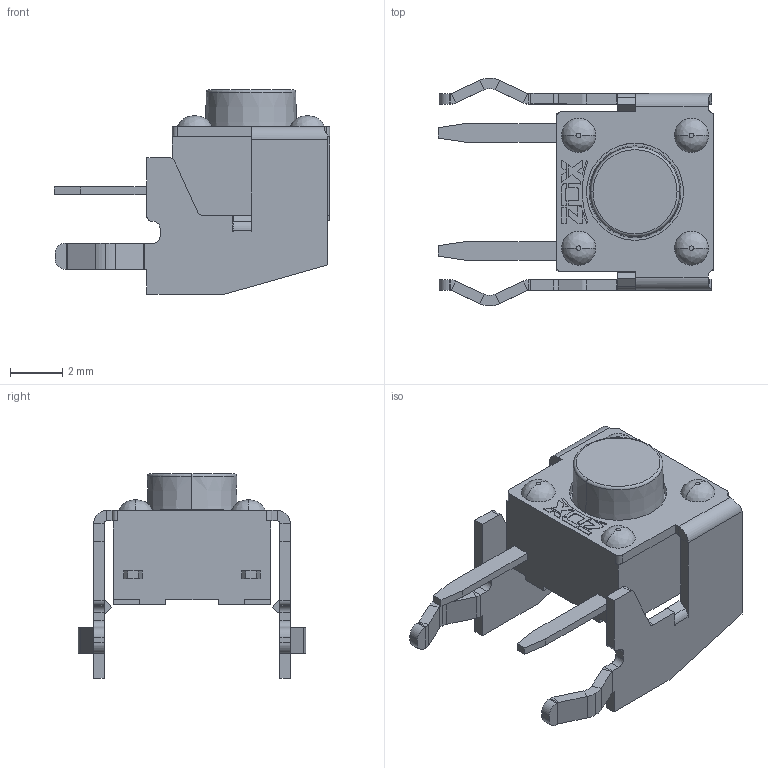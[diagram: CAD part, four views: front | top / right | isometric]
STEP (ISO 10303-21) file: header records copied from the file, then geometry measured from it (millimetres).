
FILE_DESCRIPTION((''),'2;1');
FILE_NAME('ASM0003_ASM','2024-01-06T',('WYH'),(''),'PRO/ENGINEER BY PARAMETRIC TECHNOLOGY CORPORATION, 2013040','PRO/ENGINEER BY PARAMETRIC TECHNOLOGY CORPORATION, 2013040','');
FILE_SCHEMA(('CONFIG_CONTROL_DESIGN'));
Length unit declared in the file: millimetre
Products named in the file (1): ASM0003_ASM
Bounding box: 10.5 x 8.68 x 7.8 mm (x, y, z)
Volume: 146 mm3; surface area: 514 mm2
Topology: 1 solids, 6 shells, 410 faces, 1024 edges, 646 vertices
Faces by surface type: plane 266, cylinder 113, bspline 19, cone 6, torus 6
Entity records: 12682 total; most frequent: CARTESIAN_POINT 2770, ORIENTED_EDGE 2048, DIRECTION 2046, EDGE_CURVE 1024, VECTOR 722, LINE 722, AXIS2_PLACEMENT_3D 662, VERTEX_POINT 646
